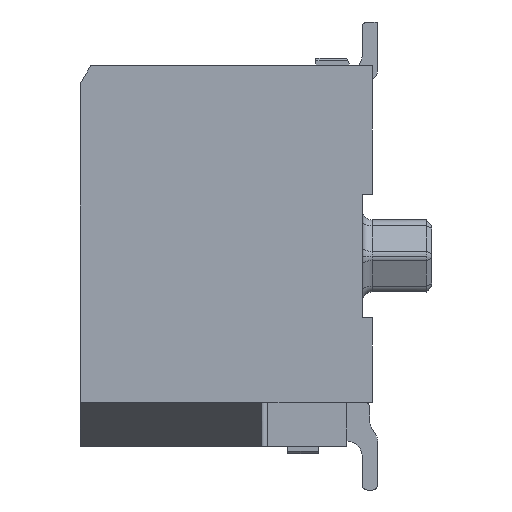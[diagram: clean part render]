
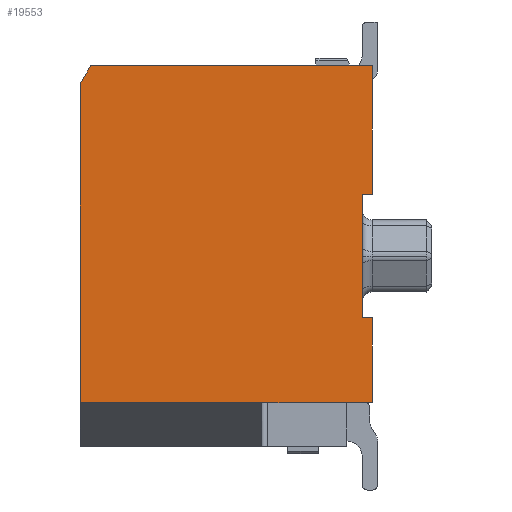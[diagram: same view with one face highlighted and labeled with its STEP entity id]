
A CAD part, left-side view. The second image highlights one B-rep face of the part: STEP entity #19553.
In plain terms, the highlighted planar face has unit normal (-1, 0, 0).
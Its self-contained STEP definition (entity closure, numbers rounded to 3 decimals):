
#3242 = LINE ( 'NONE', #3244, #39494 ) ;
#3244 = CARTESIAN_POINT ( 'NONE',  ( -31.1, 2.737, -0.3 ) ) ;
#3245 = DIRECTION ( 'NONE',  ( 0., 1., 0. ) ) ;
#3395 = EDGE_LOOP ( 'NONE', ( #85165, #85166, #85168, #85169, #85170, #85172, #85173, #85174, #85175, #85177 ) ) ;
#7353 = LINE ( 'NONE', #7355, #8871 ) ;
#7355 = CARTESIAN_POINT ( 'NONE',  ( -31.1, -2.737, 3.635 ) ) ;
#7357 = DIRECTION ( 'NONE',  ( 0., 0., -1. ) ) ;
#8871 = VECTOR ( 'NONE', #7357, 1000. ) ;
#10576 = CARTESIAN_POINT ( 'NONE',  ( -31.1, -0.787, -0.3 ) ) ;
#14922 = LINE ( 'NONE', #14926, #16886 ) ;
#14926 = CARTESIAN_POINT ( 'NONE',  ( -31.1, 2.542, 6.252 ) ) ;
#14929 = DIRECTION ( 'NONE',  ( 0., 0.496, -0.868 ) ) ;
#16381 = VECTOR ( 'NONE', #38079, 1000. ) ;
#16886 = VECTOR ( 'NONE', #14929, 1000. ) ;
#16954 = VECTOR ( 'NONE', #38809, 1000. ) ;
#19553 = ADVANCED_FACE ( 'NONE', ( #38111 ), #38146, .F. ) ;
#23613 = VERTEX_POINT ( 'NONE', #33646 ) ;
#23697 = VERTEX_POINT ( 'NONE', #33684 ) ;
#23718 = VERTEX_POINT ( 'NONE', #33693 ) ;
#23749 = VERTEX_POINT ( 'NONE', #33708 ) ;
#23787 = VERTEX_POINT ( 'NONE', #33726 ) ;
#23877 = VERTEX_POINT ( 'NONE', #33766 ) ;
#23914 = VERTEX_POINT ( 'NONE', #33784 ) ;
#23931 = VERTEX_POINT ( 'NONE', #33790 ) ;
#24592 = VERTEX_POINT ( 'NONE', #34091 ) ;
#33646 = CARTESIAN_POINT ( 'NONE',  ( -31.1, -2.938, 1.35 ) ) ;
#33684 = CARTESIAN_POINT ( 'NONE',  ( -31.1, -2.737, 3.75 ) ) ;
#33693 = CARTESIAN_POINT ( 'NONE',  ( -31.1, -2.938, 6.25 ) ) ;
#33708 = CARTESIAN_POINT ( 'NONE',  ( -31.1, 2.743, 5.901 ) ) ;
#33726 = CARTESIAN_POINT ( 'NONE',  ( -31.1, -2.938, -0.3 ) ) ;
#33766 = CARTESIAN_POINT ( 'NONE',  ( -31.1, 2.743, -0.3 ) ) ;
#33784 = CARTESIAN_POINT ( 'NONE',  ( -31.1, -2.938, 3.75 ) ) ;
#33790 = CARTESIAN_POINT ( 'NONE',  ( -31.1, 2.543, 6.25 ) ) ;
#34091 = CARTESIAN_POINT ( 'NONE',  ( -31.1, -2.737, 1.35 ) ) ;
#36198 = CARTESIAN_POINT ( 'NONE',  ( -31.1, -2.938, 1.35 ) ) ;
#36199 = LINE ( 'NONE', #36198, #94957 ) ;
#36206 = DIRECTION ( 'NONE',  ( 0., 1., 0. ) ) ;
#38076 = LINE ( 'NONE', #38078, #16381 ) ;
#38078 = CARTESIAN_POINT ( 'NONE',  ( -31.1, -2.937, 6.25 ) ) ;
#38079 = DIRECTION ( 'NONE',  ( 0., 0., -1. ) ) ;
#38111 = FACE_OUTER_BOUND ( 'NONE', #3395, .T. ) ;
#38146 = PLANE ( 'NONE',  #59732 ) ;
#38169 = CARTESIAN_POINT ( 'NONE',  ( -31.1, 2.737, 6.25 ) ) ;
#38170 = DIRECTION ( 'NONE',  ( 1., 0., 0. ) ) ;
#38172 = DIRECTION ( 'NONE',  ( 0., 0., -1. ) ) ;
#38806 = LINE ( 'NONE', #38808, #16954 ) ;
#38808 = CARTESIAN_POINT ( 'NONE',  ( -31.1, 2.743, 6.25 ) ) ;
#38809 = DIRECTION ( 'NONE',  ( 0., 0., -1. ) ) ;
#39494 = VECTOR ( 'NONE', #3245, 1000. ) ;
#41162 = VECTOR ( 'NONE', #84885, 1000. ) ;
#41413 = VECTOR ( 'NONE', #83321, 1000. ) ;
#47206 = LINE ( 'NONE', #47207, #95845 ) ;
#47207 = CARTESIAN_POINT ( 'NONE',  ( -31.1, 2.737, -0.3 ) ) ;
#47208 = DIRECTION ( 'NONE',  ( 0., 1., 0. ) ) ;
#49140 = LINE ( 'NONE', #49142, #74719 ) ;
#49142 = CARTESIAN_POINT ( 'NONE',  ( -31.1, 2.737, 6.25 ) ) ;
#49143 = DIRECTION ( 'NONE',  ( 0., -1., 0. ) ) ;
#57940 = EDGE_CURVE ( 'NONE', #23931, #23718, #49140, .T. ) ;
#58189 = EDGE_CURVE ( 'NONE', #23697, #23914, #83312, .T. ) ;
#58293 = EDGE_CURVE ( 'NONE', #23613, #23787, #84871, .T. ) ;
#58892 = EDGE_CURVE ( 'NONE', #23931, #23749, #14922, .T. ) ;
#59320 = EDGE_CURVE ( 'NONE', #23718, #23914, #38076, .T. ) ;
#59726 = EDGE_CURVE ( 'NONE', #23749, #23877, #38806, .T. ) ;
#59732 = AXIS2_PLACEMENT_3D ( 'NONE', #38169, #38170, #38172 ) ;
#60638 = EDGE_CURVE ( 'NONE', #23787, #83404, #3242, .T. ) ;
#61276 = EDGE_CURVE ( 'NONE', #23697, #24592, #7353, .T. ) ;
#61891 = EDGE_CURVE ( 'NONE', #23613, #24592, #36199, .T. ) ;
#61990 = EDGE_CURVE ( 'NONE', #83404, #23877, #47206, .T. ) ;
#74719 = VECTOR ( 'NONE', #49143, 1000. ) ;
#83312 = LINE ( 'NONE', #83318, #41413 ) ;
#83318 = CARTESIAN_POINT ( 'NONE',  ( -31.1, -2.938, 3.75 ) ) ;
#83321 = DIRECTION ( 'NONE',  ( 0., -1., 0. ) ) ;
#83404 = VERTEX_POINT ( 'NONE', #10576 ) ;
#84869 = CARTESIAN_POINT ( 'NONE',  ( -31.1, -2.937, 6.25 ) ) ;
#84871 = LINE ( 'NONE', #84869, #41162 ) ;
#84885 = DIRECTION ( 'NONE',  ( 0., 0., -1. ) ) ;
#85165 = ORIENTED_EDGE ( 'NONE', *, *, #61990, .F. ) ;
#85166 = ORIENTED_EDGE ( 'NONE', *, *, #60638, .F. ) ;
#85168 = ORIENTED_EDGE ( 'NONE', *, *, #58293, .F. ) ;
#85169 = ORIENTED_EDGE ( 'NONE', *, *, #61891, .T. ) ;
#85170 = ORIENTED_EDGE ( 'NONE', *, *, #61276, .F. ) ;
#85172 = ORIENTED_EDGE ( 'NONE', *, *, #58189, .T. ) ;
#85173 = ORIENTED_EDGE ( 'NONE', *, *, #59320, .F. ) ;
#85174 = ORIENTED_EDGE ( 'NONE', *, *, #57940, .F. ) ;
#85175 = ORIENTED_EDGE ( 'NONE', *, *, #58892, .T. ) ;
#85177 = ORIENTED_EDGE ( 'NONE', *, *, #59726, .T. ) ;
#94957 = VECTOR ( 'NONE', #36206, 1000. ) ;
#95845 = VECTOR ( 'NONE', #47208, 1000. ) ;
